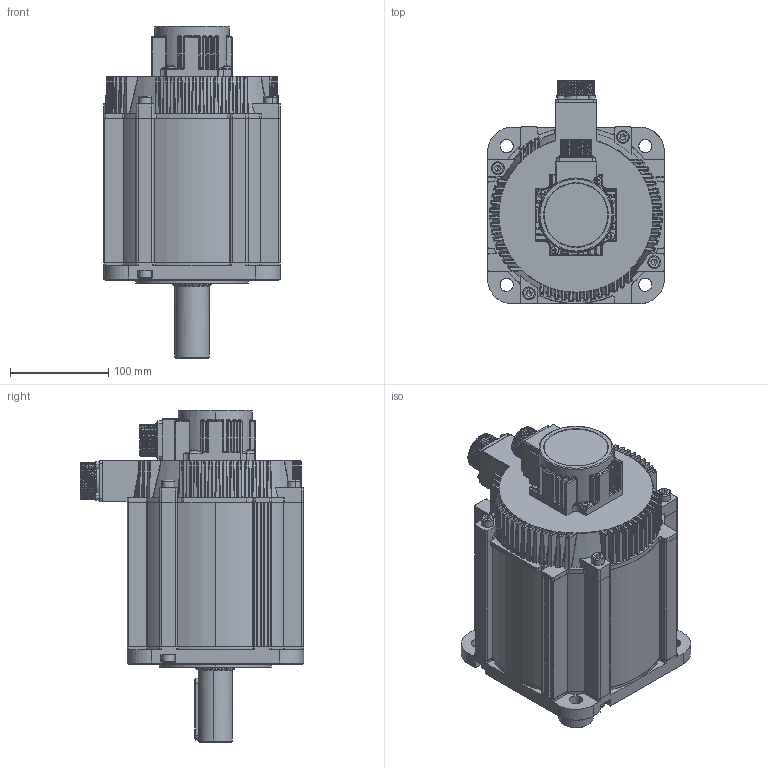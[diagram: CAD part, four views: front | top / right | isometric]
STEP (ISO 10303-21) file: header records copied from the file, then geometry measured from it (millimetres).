
FILE_DESCRIPTION (( 'STEP AP203' ), '1' );
FILE_NAME ('WB180ST-M35015 YD.STEP', '2022-09-06T10:26:53', ( '' ), ( '' ), 'SwSTEP 2.0', 'SolidWorks 2018', '' );
FILE_SCHEMA (( 'CONFIG_CONTROL_DESIGN' ));
Length unit declared in the file: millimetre
Products named in the file (1): WB180ST-M35015 YD
Bounding box: 180 x 227.5 x 338.4 mm (x, y, z)
Volume: 1873247.4 mm3; surface area: 576410.6 mm2
Topology: 30 solids, 30 shells, 2524 faces, 6391 edges, 3727 vertices
Faces by surface type: cylinder 816, plane 726, bspline 392, torus 219, cone 186, sphere 185
Entity records: 98431 total; most frequent: CARTESIAN_POINT 44048, ORIENTED_EDGE 12146, DIRECTION 10318, EDGE_CURVE 6073, AXIS2_PLACEMENT_3D 4299, VERTEX_POINT 3712, EDGE_LOOP 2701, FACE_OUTER_BOUND 2524
